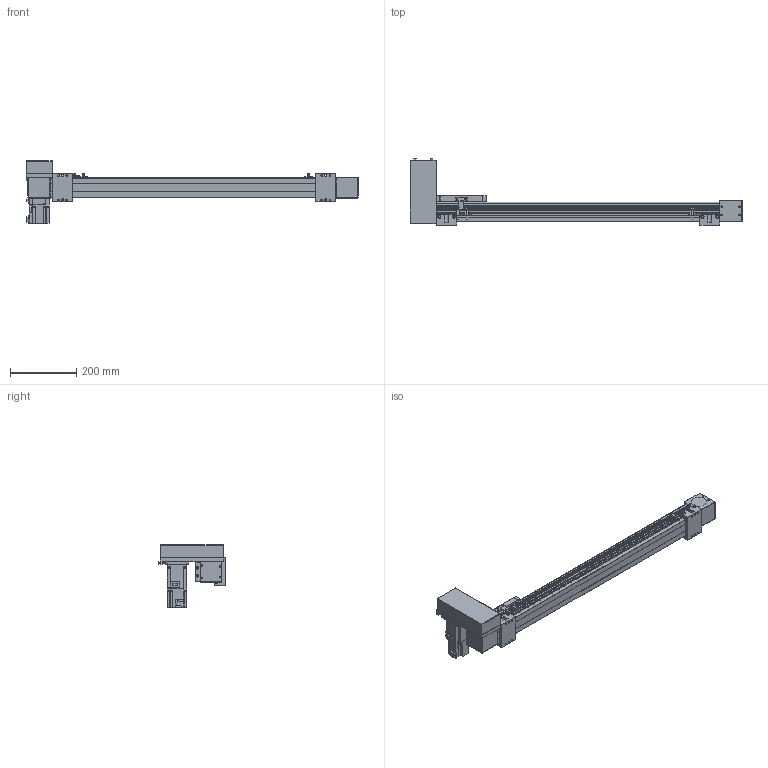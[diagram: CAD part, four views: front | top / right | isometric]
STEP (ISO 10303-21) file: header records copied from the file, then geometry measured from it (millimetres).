
FILE_DESCRIPTION(/* description */ ('STEP AP214'),/* implementation_level */ '2;1');
FILE_NAME(/* name */ 'SK60-P13-S700-RU-T40-C1-N(0)',/* time_stamp */ '2023-04-06T05:02:31+02:00',/* author */ ('License CC BY-ND 4.0'),/* organization */ ('CADENAS'),/* preprocessor_version */ 'ST-DEVELOPER v19.3',/* originating_system */ 'PARTsolutions',/* authorisation */ ' ');
FILE_SCHEMA (('AUTOMOTIVE_DESIGN {1 0 10303 214 3 1 1}'));
Length unit declared in the file: millimetre
Products named in the file (10): SK60-P13-S700-RU-T40-C1-N(0); PSC140-sensor; SK60-S450_seat; SK60-S450-BL-C1_slider; SK60_body3; SK60_body6; SK60-BL_body2; T40-p1; SK60-RU_fb; SK60-S700-RU-C1_body
Assembly tree (16 placements, depth 2):
  SK60-P13-S700-RU-T40-C1-N(0)
    PSC140-sensor  x3
    SK60-S450_seat  x2
    SK60-S450-BL-C1_slider
    SK60_body3  x3
    SK60_body6  x2
    SK60-BL_body2  x2
    T40-p1
    SK60-RU_fb
    SK60-S700-RU-C1_body
Bounding box: 1005.5 x 201 x 189.7 mm (x, y, z)
Volume: 4618234.4 mm3; surface area: 597129.9 mm2
Topology: 16 solids, 16 shells, 810 faces, 2048 edges, 1349 vertices
Faces by surface type: plane 524, cylinder 262, cone 22, torus 2
Full cylindrical faces by diameter (mm): 2.8 x3, 3.3 x4, 4 x2, 4.5 x30, 4.6 x3, 4.917 x16, 5 x6, 5.478 x4, 5.5 x19, 6.5 x4, 7 x2, 8 x4, 8.5 x4, 9.988 x4, 10 x8, 14 x1, 47 x3, 50 x2
Entity records: 18655 total; most frequent: DIRECTION 3184, CARTESIAN_POINT 3150, ORIENTED_EDGE 2940, EDGE_CURVE 1470, AXIS2_PLACEMENT_3D 1068, LINE 1048, VECTOR 1048, VERTEX_POINT 1034
